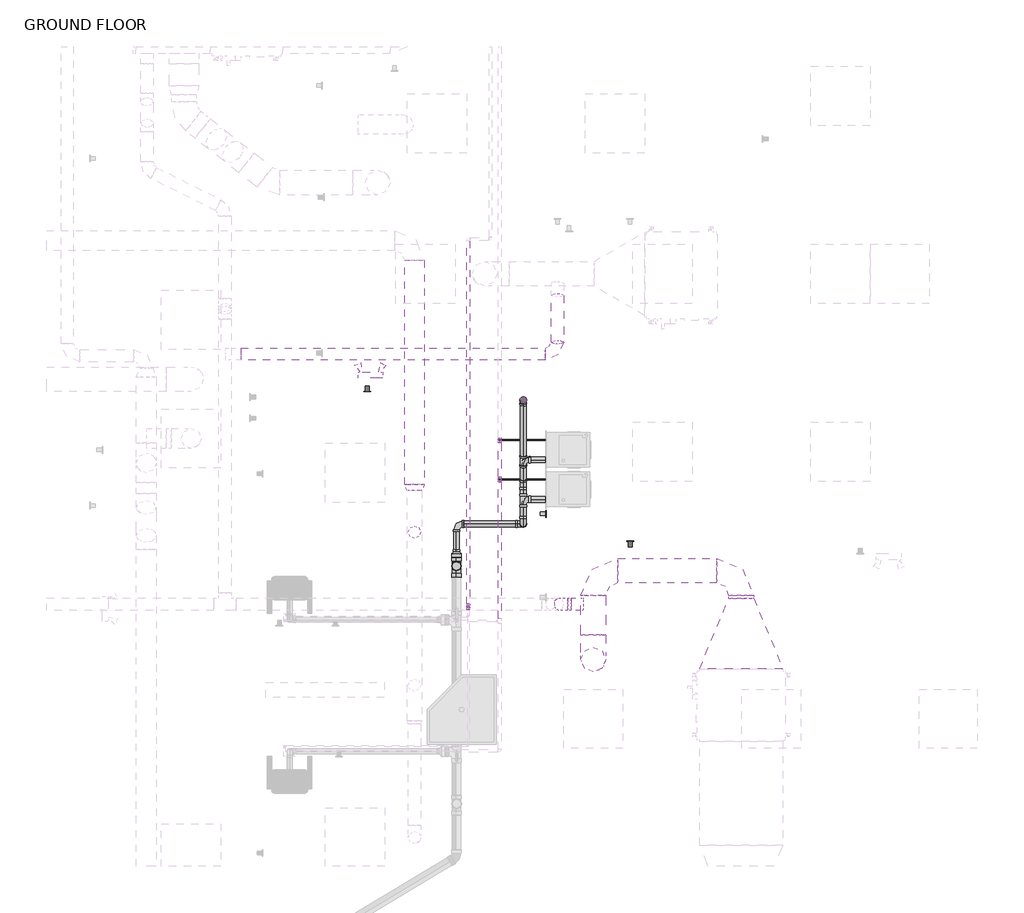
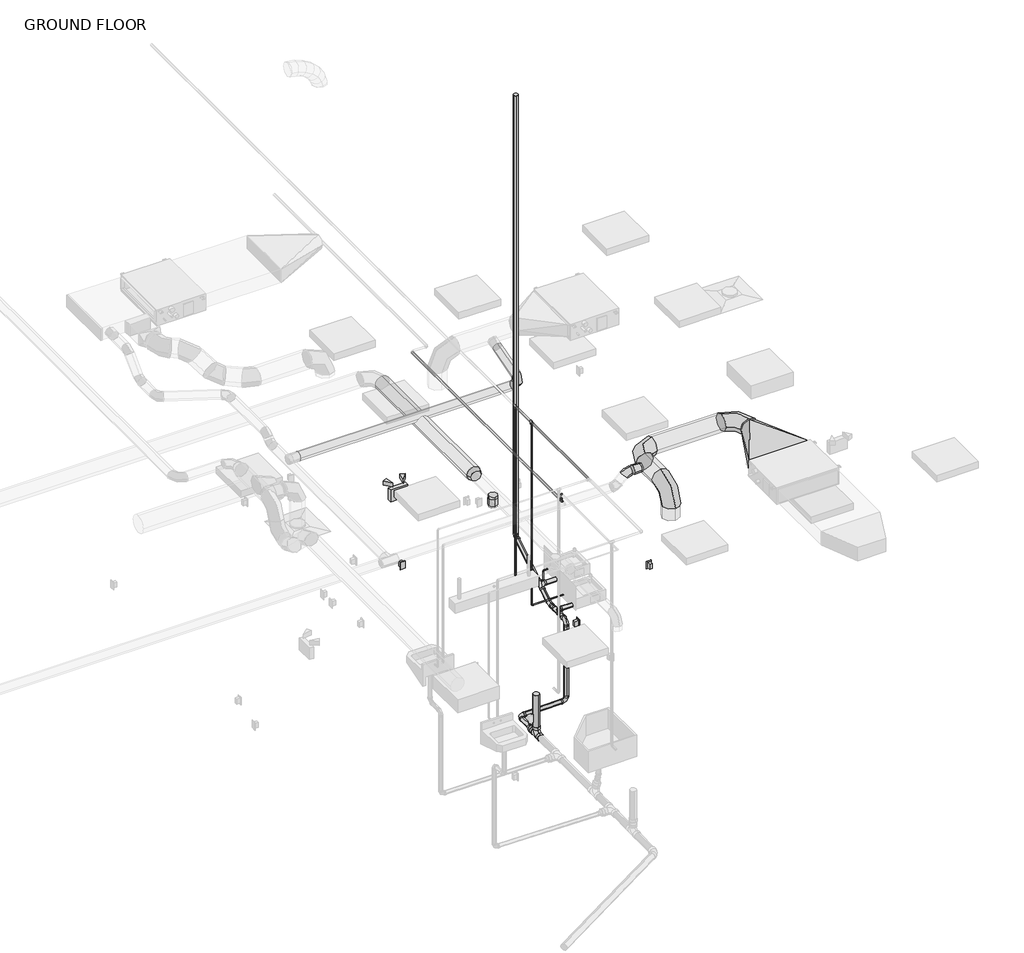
# One storey, part 9 of 22: 21 pipe fittings, 21 pipe segments, 9 duct fittings, 9 duct segments, 2 switching devices, 1 light fixture, 1 proxy.
"""IFC4 building model written with IfcOpenShell, lengths in millimetres."""

from ifc_helpers import new_model, si_unit, point, frame, frame_2d, origin, place, context, project, spatial, circle_curve, trimmed, segment, composite_curve, outline, extrude, transform, mapped, element, save
from components import duplex_receptacle_countertop_10251bba, rectangular_to_round_transition_angle_45_degree_daff1ed7, round_elbow_1_d_6fec3262, round_elbow_1_d_c80420c1, round_elbow_1_d_d98422f0, round_takeoff_standard_0d53327c, round_takeoff_standard_e4d44d96, round_transition_angle_45_degree_998e22e1, emergency_wall_light_120v_37438f40, bend_pvc_sch_40_dwv_standard_1eaeee76, bend_pvc_sch_40_dwv_standard_d9ad1acb, bend_pvc_sch_40_dwv_standard_2067a29d, bend_pvc_sch_40_dwv_standard_52106326, bend_pvc_sch_40_dwv_standard_d8414b2c, elbow_generic_standard_6ceb1649, elbow_generic_standard_a088f956, reducer_pvc_sch_40_dwv_standard_464ee0c2, tee_generic_standard_d345b28c, tee_sanitary_pvc_sch_40_dwv_standard_1c89b272, tee_sanitary_pvc_sch_40_dwv_standard_7b7ecc20, transition_generic_standard_19d9bb8b, transition_generic_standard_df161815, transition_generic_standard_18b712a4

model = new_model("IFC4")

# Units and contexts
model_context = context("Model", 3, world=origin())
ifc_project = project(units=[si_unit("LENGTHUNIT", "METRE", prefix="MILLI")], contexts=[model_context])

# Site, building, storey
site = spatial("IfcSite", under=ifc_project)
building = spatial("IfcBuilding", under=site)
storey = spatial("IfcBuildingStorey", under=building, Name="GROUND FLOOR", Elevation=30480.0)

# Proxy
placement = place(None, origin())
duplex_receptacle_countertop_shape = duplex_receptacle_countertop_10251bba(model_context)
element("IfcBuildingElementProxy", 1, Name="Duplex Receptacle : Standard", ObjectType="Duplex Receptacle : Standard", at=placement, inside=storey, context=model_context, shape_type="MappedRepresentation", body=[
    mapped(duplex_receptacle_countertop_shape, transform((13856.6545393, -2316.5298584, 30937.2), x_axis=(0.0, 1.0, 0.0), y_axis=(0.0, 0.0, 1.0), z_axis=(1.0, 0.0, 0.0))),
])

# Duct fittings
rectangular_to_round_transition_angle_45_degree_shape = rectangular_to_round_transition_angle_45_degree_daff1ed7(model_context)
element("IfcDuctFitting", 2, ObjectType="Rectangular to Round Transition - Angle : 45 Degree", at=placement, inside=storey, context=model_context, shape_type="MappedRepresentation", body=[
    mapped(rectangular_to_round_transition_angle_45_degree_shape, transform((15866.7105962, -3910.739426, 33763.74375), x_axis=(0.0, 1.0, 0.0), y_axis=(-1.0, 0.0, 0.0), z_axis=(0.0, 0.0, 1.0))),
])
round_elbow_1_d_shape = round_elbow_1_d_6fec3262(model_context)
element("IfcDuctFitting", 3, ObjectType="Round Elbow : 1 D", at=placement, inside=storey, context=model_context, shape_type="MappedRepresentation", body=[
    mapped(round_elbow_1_d_shape, transform((15866.7105962, -2901.8412376, 33763.74375), x_axis=(0.0, 1.0, 0.0), y_axis=(-1.0, 0.0, 0.0), z_axis=(0.0, 0.0, 1.0))),
])
element("IfcDuctFitting", 4, ObjectType="Round Elbow : 1 D", at=placement, inside=storey, context=model_context, shape_type="MappedRepresentation", body=[
    mapped(round_elbow_1_d_shape, transform((14345.6045393, -3815.3554995, 33763.74375), x_axis=(0.0, 0.0, 1.0), y_axis=(0.0, 1.0, 0.0), z_axis=(-1.0, 0.0, 0.0))),
])
element("IfcDuctFitting", 5, ObjectType="Round Elbow : 1 D", at=placement, inside=storey, context=model_context, shape_type="MappedRepresentation", body=[
    mapped(round_elbow_1_d_shape, transform((14345.6045393, -2901.8412376, 33763.74375), x_axis=(-1.0, 0.0, 0.0), y_axis=(0.0, -1.0, 0.0), z_axis=(0.0, 0.0, 1.0))),
])
round_elbow_1_d_2_shape = round_elbow_1_d_c80420c1(model_context)
element("IfcDuctFitting", 6, ObjectType="Round Elbow : 1 D", at=placement, inside=storey, context=model_context, shape_type="MappedRepresentation", body=[
    mapped(round_elbow_1_d_2_shape, transform((13976.8577502, -673.4644888, 33602.9101562), x_axis=(1.0, 0.0, 0.0), y_axis=(0.0, 0.9574860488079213, 0.2884795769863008), z_axis=(0.0, -0.2884795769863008, 0.9574860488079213))),
])
round_elbow_1_d_3_shape = round_elbow_1_d_d98422f0(model_context)
element("IfcDuctFitting", 7, ObjectType="Round Elbow : 1 D", at=placement, inside=storey, context=model_context, shape_type="MappedRepresentation", body=[
    mapped(round_elbow_1_d_3_shape, transform((14029.5744977, -3245.6216457, 33763.74375), x_axis=(-1.0, 0.0, 0.0), y_axis=(0.0, 0.0, -1.0), z_axis=(0.0, -1.0, 0.0))),
])
round_takeoff_standard_shape = round_takeoff_standard_0d53327c(model_context)
element("IfcDuctFitting", 8, ObjectType="Round Takeoff : Standard", at=placement, inside=storey, context=model_context, shape_type="MappedRepresentation", body=[
    mapped(round_takeoff_standard_shape, transform((12507.2795393, -2504.0804995, 33451.8), x_axis=(0.0, 0.0, -1.0), y_axis=(-1.0, 0.0, 0.0), z_axis=(0.0, 1.0, 0.0))),
])
round_takeoff_standard_2_shape = round_takeoff_standard_e4d44d96(model_context)
element("IfcDuctFitting", 9, ObjectType="Round Takeoff : Standard", at=placement, inside=storey, context=model_context, shape_type="MappedRepresentation", body=[
    mapped(round_takeoff_standard_2_shape, transform((14218.6045393, -3245.6216457, 33763.74375), x_axis=(-1.0, 0.0, 0.0), y_axis=(0.0, 1.0, 0.0), z_axis=(0.0, 0.0, -1.0))),
])
round_transition_angle_45_degree_shape = round_transition_angle_45_degree_998e22e1(model_context)
element("IfcDuctFitting", 10, ObjectType="Round Transition - Angle : 45 Degree", at=placement, inside=storey, context=model_context, shape_type="MappedRepresentation", body=[
    mapped(round_transition_angle_45_degree_shape, transform((12507.2795393, -2078.3733869, 33528.0), x_axis=(0.0, 1.0, 0.0), y_axis=(-1.0, 0.0, 0.0), z_axis=(0.0, 0.0, 1.0))),
])

# Duct segments
element("IfcDuctSegment", 11, ObjectType="Taps / Short Radius", at=placement, inside=storey, context=model_context, shape_type="SweptSolid", body=[
    extrude(outline(composite_curve([segment(trimmed(circle_curve(frame_2d((33763.74375, 15866.7105962)), 127.0), [point((33763.74375, 15993.7105962))], [point((33890.74375, 15866.7105962))], False, "CARTESIAN"), True, "CONTINUOUS"), segment(trimmed(circle_curve(frame_2d((33763.74375, 15866.7105962)), 127.0), [point((33890.74375, 15866.7105962))], [point((33763.74375, 15739.7105962))], False, "CARTESIAN"), True, "CONTINUOUS"), segment(trimmed(circle_curve(frame_2d((33763.74375, 15866.7105962)), 127.0), [point((33763.74375, 15739.7105962))], [point((33636.74375, 15866.7105962))], False, "CARTESIAN"), True, "CONTINUOUS"), segment(trimmed(circle_curve(frame_2d((33763.74375, 15866.7105962)), 127.0), [point((33636.74375, 15866.7105962))], [point((33763.74375, 15993.7105962))], False, "CARTESIAN"), True, "CONTINUOUS")], self_intersect=False)), frame((0.0, -3184.4685422, 0.0), z_axis=(0.0, 1.0, 0.0), x_axis=(0.0, 0.0, 1.0)), (0.0, 0.0, 1.0), 28.6273046),
])
element("IfcDuctSegment", 12, ObjectType="Taps / Short Radius", at=placement, inside=storey, context=model_context, shape_type="SweptSolid", body=[
    extrude(outline(composite_curve([segment(trimmed(circle_curve(frame_2d((-2901.8412376, 33763.74375)), 127.0), [point((-2774.8412376, 33763.74375))], [point((-2901.8412376, 33636.74375))], False, "CARTESIAN"), True, "CONTINUOUS"), segment(trimmed(circle_curve(frame_2d((-2901.8412376, 33763.74375)), 127.0), [point((-2901.8412376, 33636.74375))], [point((-3028.8412376, 33763.74375))], False, "CARTESIAN"), True, "CONTINUOUS"), segment(trimmed(circle_curve(frame_2d((-2901.8412376, 33763.74375)), 127.0), [point((-3028.8412376, 33763.74375))], [point((-2901.8412376, 33890.74375))], False, "CARTESIAN"), True, "CONTINUOUS"), segment(trimmed(circle_curve(frame_2d((-2901.8412376, 33763.74375)), 127.0), [point((-2901.8412376, 33890.74375))], [point((-2774.8412376, 33763.74375))], False, "CARTESIAN"), True, "CONTINUOUS")], self_intersect=False)), frame((14599.6045393, 0.0, 0.0), z_axis=(1.0, 0.0, 0.0), x_axis=(0.0, 1.0, 0.0)), (0.0, 0.0, 1.0), 1013.1060569),
])
element("IfcDuctSegment", 13, ObjectType="Taps / Short Radius", at=placement, inside=storey, context=model_context, shape_type="SweptSolid", body=[
    extrude(outline(composite_curve([segment(trimmed(circle_curve(frame_2d((33763.74375, 14345.6045393)), 127.0), [point((33763.74375, 14472.6045393))], [point((33890.74375, 14345.6045393))], False, "CARTESIAN"), True, "CONTINUOUS"), segment(trimmed(circle_curve(frame_2d((33763.74375, 14345.6045393)), 127.0), [point((33890.74375, 14345.6045393))], [point((33763.74375, 14218.6045393))], False, "CARTESIAN"), True, "CONTINUOUS"), segment(trimmed(circle_curve(frame_2d((33763.74375, 14345.6045393)), 127.0), [point((33763.74375, 14218.6045393))], [point((33636.74375, 14345.6045393))], False, "CARTESIAN"), True, "CONTINUOUS"), segment(trimmed(circle_curve(frame_2d((33763.74375, 14345.6045393)), 127.0), [point((33636.74375, 14345.6045393))], [point((33763.74375, 14472.6045393))], False, "CARTESIAN"), True, "CONTINUOUS")], self_intersect=False)), frame((0.0, -3561.3554995, 0.0), z_axis=(0.0, 1.0, 0.0), x_axis=(0.0, 0.0, 1.0)), (0.0, 0.0, 1.0), 405.5142618),
])
element("IfcDuctSegment", 14, ObjectType="Taps / Short Radius", at=placement, inside=storey, context=model_context, shape_type="SweptSolid", body=[
    extrude(outline(composite_curve([segment(trimmed(circle_curve(frame_2d((14345.6045393, -3815.3554995)), 127.0), [point((14472.6045393, -3815.3554995))], [point((14345.6045393, -3942.3554995))], False, "CARTESIAN"), True, "CONTINUOUS"), segment(trimmed(circle_curve(frame_2d((14345.6045393, -3815.3554995)), 127.0), [point((14345.6045393, -3942.3554995))], [point((14218.6045393, -3815.3554995))], False, "CARTESIAN"), True, "CONTINUOUS"), segment(trimmed(circle_curve(frame_2d((14345.6045393, -3815.3554995)), 127.0), [point((14218.6045393, -3815.3554995))], [point((14345.6045393, -3688.3554995))], False, "CARTESIAN"), True, "CONTINUOUS"), segment(trimmed(circle_curve(frame_2d((14345.6045393, -3815.3554995)), 127.0), [point((14345.6045393, -3688.3554995))], [point((14472.6045393, -3815.3554995))], False, "CARTESIAN"), True, "CONTINUOUS")], self_intersect=False)), frame((0.0, 0.0, 33324.8), z_axis=(0.0, 0.0, 1.0), x_axis=(1.0, 0.0, 0.0)), (0.0, 0.0, 1.0), 184.94375),
])
element("IfcDuctSegment", 15, ObjectType="Taps / Short Radius", at=placement, inside=storey, context=model_context, shape_type="SweptSolid", body=[
    extrude(outline(composite_curve([segment(trimmed(circle_curve(frame_2d((-673.4644888, 33602.9101562)), 63.5), [point((-736.9644888, 33602.9101562))], [point((-673.4644888, 33666.4101562))], False, "CARTESIAN"), True, "CONTINUOUS"), segment(trimmed(circle_curve(frame_2d((-673.4644888, 33602.9101562)), 63.5), [point((-673.4644888, 33666.4101562))], [point((-609.9644888, 33602.9101562))], False, "CARTESIAN"), True, "CONTINUOUS"), segment(trimmed(circle_curve(frame_2d((-673.4644888, 33602.9101562)), 63.5), [point((-609.9644888, 33602.9101562))], [point((-673.4644888, 33539.4101563))], False, "CARTESIAN"), True, "CONTINUOUS"), segment(trimmed(circle_curve(frame_2d((-673.4644888, 33602.9101562)), 63.5), [point((-673.4644888, 33539.4101563))], [point((-736.9644888, 33602.9101562))], False, "CARTESIAN"), True, "CONTINUOUS")], self_intersect=False)), frame((10725.6577502, 0.0, 0.0), z_axis=(1.0, 0.0, 0.0), x_axis=(0.0, 1.0, 0.0)), (0.0, 0.0, 1.0), 3124.2),
])
element("IfcDuctSegment", 16, ObjectType="Taps / Short Radius", at=placement, inside=storey, context=model_context, shape_type="SweptSolid", body=[
    extrude(outline(composite_curve([segment(trimmed(circle_curve(frame_2d((-3245.6216457, 33763.74375)), 63.5), [point((-3182.1216457, 33763.74375))], [point((-3245.6216457, 33700.24375))], False, "CARTESIAN"), True, "CONTINUOUS"), segment(trimmed(circle_curve(frame_2d((-3245.6216457, 33763.74375)), 63.5), [point((-3245.6216457, 33700.24375))], [point((-3309.1216457, 33763.74375))], False, "CARTESIAN"), True, "CONTINUOUS"), segment(trimmed(circle_curve(frame_2d((-3245.6216457, 33763.74375)), 63.5), [point((-3309.1216457, 33763.74375))], [point((-3245.6216457, 33827.24375))], False, "CARTESIAN"), True, "CONTINUOUS"), segment(trimmed(circle_curve(frame_2d((-3245.6216457, 33763.74375)), 63.5), [point((-3245.6216457, 33827.24375))], [point((-3182.1216457, 33763.74375))], False, "CARTESIAN"), True, "CONTINUOUS")], self_intersect=False)), frame((14082.1796392, 0.0, 0.0), z_axis=(1.0, 0.0, 0.0), x_axis=(0.0, 1.0, 0.0)), (0.0, 0.0, 1.0), 34.8249001),
])
element("IfcDuctSegment", 17, ObjectType="Taps / Short Radius", at=placement, inside=storey, context=model_context, shape_type="SweptSolid", body=[
    extrude(outline(composite_curve([segment(trimmed(circle_curve(frame_2d((0.0, -63.5)), 63.5), [point((-63.5, -63.5))], [point((0.0, 0.0))], False, "CARTESIAN"), True, "CONTINUOUS"), segment(trimmed(circle_curve(frame_2d((0.0, -63.5)), 63.5), [point((0.0, 0.0))], [point((63.5, -63.5))], False, "CARTESIAN"), True, "CONTINUOUS"), segment(trimmed(circle_curve(frame_2d((0.0, -63.5)), 63.5), [point((63.5, -63.5))], [point((0.0, -127.0))], False, "CARTESIAN"), True, "CONTINUOUS"), segment(trimmed(circle_curve(frame_2d((0.0, -63.5)), 63.5), [point((0.0, -127.0))], [point((-63.5, -63.5))], False, "CARTESIAN"), True, "CONTINUOUS")], self_intersect=False)), frame((13976.8577502, -533.5453075, 33578.7466984), z_axis=(0.0, 0.9574860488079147, 0.28847957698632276), x_axis=(1.0, 0.0, 0.0)), (0.0, 0.0, 1.0), 504.8970831),
])
element("IfcDuctSegment", 18, ObjectType="Taps / Short Radius", at=placement, inside=storey, context=model_context, shape_type="SweptSolid", body=[
    extrude(outline(composite_curve([segment(trimmed(circle_curve(frame_2d((33528.0, 12507.2795393)), 101.6), [point((33528.0, 12608.8795393))], [point((33629.6, 12507.2795393))], False, "CARTESIAN"), True, "CONTINUOUS"), segment(trimmed(circle_curve(frame_2d((33528.0, 12507.2795393)), 101.6), [point((33629.6, 12507.2795393))], [point((33528.0, 12405.6795393))], False, "CARTESIAN"), True, "CONTINUOUS"), segment(trimmed(circle_curve(frame_2d((33528.0, 12507.2795393)), 101.6), [point((33528.0, 12405.6795393))], [point((33426.4, 12507.2795393))], False, "CARTESIAN"), True, "CONTINUOUS"), segment(trimmed(circle_curve(frame_2d((33528.0, 12507.2795393)), 101.6), [point((33426.4, 12507.2795393))], [point((33528.0, 12608.8795393))], False, "CARTESIAN"), True, "CONTINUOUS")], self_intersect=False)), frame((0.0, -2017.0523624, 0.0), z_axis=(0.0, 1.0, 0.0), x_axis=(0.0, 0.0, 1.0)), (0.0, 0.0, 1.0), 2307.1938554),
])
element("IfcDuctSegment", 19, ObjectType="Taps / Short Radius", at=placement, inside=storey, context=model_context, shape_type="SweptSolid", body=[
    extrude(outline(composite_curve([segment(trimmed(circle_curve(frame_2d((0.0, 63.5)), 63.5), [point((-63.5, 63.5))], [point((0.0, 127.0))], False, "CARTESIAN"), True, "CONTINUOUS"), segment(trimmed(circle_curve(frame_2d((0.0, 63.5)), 63.5), [point((0.0, 127.0))], [point((63.5, 63.5))], False, "CARTESIAN"), True, "CONTINUOUS"), segment(trimmed(circle_curve(frame_2d((0.0, 63.5)), 63.5), [point((63.5, 63.5))], [point((0.0, 0.0))], False, "CARTESIAN"), True, "CONTINUOUS"), segment(trimmed(circle_curve(frame_2d((0.0, 63.5)), 63.5), [point((0.0, 0.0))], [point((-63.5, 63.5))], False, "CARTESIAN"), True, "CONTINUOUS")], self_intersect=False)), frame((12507.2795393, -2567.5804995, 33324.8), z_axis=(0.0, -2.3192114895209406e-12, 1.0), x_axis=(1.0, 0.0, 0.0)), (0.0, 0.0, 1.0), 25.4),
])

# Light fixture
emergency_wall_light_120v_shape = emergency_wall_light_120v_37438f40(model_context)
element("IfcLightFixture", 20, ObjectType="Emergency Wall Light : 120V", at=placement, inside=storey, context=model_context, shape_type="MappedRepresentation", body=[
    mapped(emergency_wall_light_120v_shape, transform((12055.5511347, -919.7554995, 32715.2), x_axis=(-1.0, 0.0, 0.0), y_axis=(0.0, 0.0, 1.0), z_axis=(0.0, 1.0, 0.0))),
])

# Pipe fittings
bend_pvc_sch_40_dwv_standard_shape = bend_pvc_sch_40_dwv_standard_1eaeee76(model_context)
element("IfcPipeFitting", 21, ObjectType="Bend - PVC - Sch 40 - DWV : Standard", at=placement, inside=storey, context=model_context, shape_type="MappedRepresentation", body=[
    mapped(bend_pvc_sch_40_dwv_standard_shape, transform((13624.8795393, -2421.2610943, 31115.0), x_axis=(0.0, 0.0, 1.0), y_axis=(0.0, 1.0, 0.0), z_axis=(-1.0, 0.0, 0.0))),
])
bend_pvc_sch_40_dwv_standard_2_shape = bend_pvc_sch_40_dwv_standard_d9ad1acb(model_context)
element("IfcPipeFitting", 22, ObjectType="Bend - PVC - Sch 40 - DWV : Standard", at=placement, inside=storey, context=model_context, shape_type="MappedRepresentation", body=[
    mapped(bend_pvc_sch_40_dwv_standard_2_shape, transform((13624.8795393, -2009.7750135, 31115.0), x_axis=(0.0, 1.0, 0.0), y_axis=(0.0, 0.0, 1.0), z_axis=(1.0, 0.0, 0.0))),
])
bend_pvc_sch_40_dwv_standard_3_shape = bend_pvc_sch_40_dwv_standard_2067a29d(model_context)
element("IfcPipeFitting", 23, ObjectType="Bend - PVC - Sch 40 - DWV : Standard", at=placement, inside=storey, context=model_context, shape_type="MappedRepresentation", body=[
    mapped(bend_pvc_sch_40_dwv_standard_3_shape, transform((12939.0795393, -2421.2610943, 29874.8317708), x_axis=(-0.9999457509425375, 0.0, -0.010416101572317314), y_axis=(0.0001084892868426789, -0.9999457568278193, -0.010414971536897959), z_axis=(-0.010415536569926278, -0.010415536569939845, 0.9998915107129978))),
])
bend_pvc_sch_40_dwv_standard_4_shape = bend_pvc_sch_40_dwv_standard_52106326(model_context)
element("IfcPipeFitting", 24, ObjectType="Bend - PVC - Sch 40 - DWV : Standard", at=placement, inside=storey, context=model_context, shape_type="MappedRepresentation", body=[
    mapped(bend_pvc_sch_40_dwv_standard_4_shape, transform((13624.8795393, -2421.2610943, 29881.9755208), x_axis=(0.9999457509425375, 0.0, 0.010416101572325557), y_axis=(-0.010416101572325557, 0.0, 0.9999457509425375), z_axis=(0.0, -1.0, 0.0))),
])
bend_pvc_sch_40_dwv_standard_5_shape = bend_pvc_sch_40_dwv_standard_d8414b2c(model_context)
element("IfcPipeFitting", 25, ObjectType="Bend - PVC - Sch 40 - DWV : Standard", at=placement, inside=storey, context=model_context, shape_type="MappedRepresentation", body=[
    mapped(bend_pvc_sch_40_dwv_standard_5_shape, transform((13624.8795393, -1146.9148781, 31642.6356096), x_axis=(0.0, 0.8531356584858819, 0.5216891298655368), y_axis=(0.0, -0.5216891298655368, 0.8531356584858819), z_axis=(1.0, 0.0, 0.0))),
])
elbow_generic_standard_shape = elbow_generic_standard_6ceb1649(model_context)
element("IfcPipeFitting", 26, ObjectType="Elbow - Generic : Standard", at=placement, inside=storey, context=model_context, shape_type="MappedRepresentation", body=[
    mapped(elbow_generic_standard_shape, transform((13383.5569177, -1963.7502033, 31150.71875), x_axis=(0.0, 0.0, -1.0), y_axis=(1.0, 0.0, 0.0), z_axis=(0.0, -1.0, 0.0))),
])
element("IfcPipeFitting", 27, ObjectType="Elbow - Generic : Standard", at=placement, inside=storey, context=model_context, shape_type="MappedRepresentation", body=[
    mapped(elbow_generic_standard_shape, transform((13789.9797527, -1557.3502033, 31303.11875), x_axis=(-1.0, 0.0, 0.0), y_axis=(0.0, 0.0, -1.0), z_axis=(0.0, -1.0, 0.0))),
])
element("IfcPipeFitting", 28, ObjectType="Elbow - Generic : Standard", at=placement, inside=storey, context=model_context, shape_type="MappedRepresentation", body=[
    mapped(elbow_generic_standard_shape, transform((13383.5569177, -1557.3502033, 31150.71875), x_axis=(0.0, 0.0, -1.0), y_axis=(1.0, 0.0, 0.0), z_axis=(0.0, -1.0, 0.0))),
])
element("IfcPipeFitting", 29, ObjectType="Elbow - Generic : Standard", at=placement, inside=storey, context=model_context, shape_type="MappedRepresentation", body=[
    mapped(elbow_generic_standard_shape, transform((13789.9797527, -1557.3502033, 31150.71875), x_axis=(0.0, 0.0, -1.0), y_axis=(-1.0, 0.0, 0.0), z_axis=(0.0, 1.0, 0.0))),
])
elbow_generic_standard_2_shape = elbow_generic_standard_a088f956(model_context)
element("IfcPipeFitting", 30, ObjectType="Elbow - Generic : Standard", at=placement, inside=storey, context=model_context, shape_type="MappedRepresentation", body=[
    mapped(elbow_generic_standard_2_shape, transform((13060.9512041, -3272.4304995, 33782.0), x_axis=(0.0, 1.0, 0.0), y_axis=(0.0, 0.0, -1.0), z_axis=(-1.0, 0.0, 0.0))),
])
reducer_pvc_sch_40_dwv_standard_shape = reducer_pvc_sch_40_dwv_standard_464ee0c2(model_context)
element("IfcPipeFitting", 31, ObjectType="Reducer - PVC - Sch 40 - DWV : Standard", at=placement, inside=storey, context=model_context, shape_type="MappedRepresentation", body=[
    mapped(reducer_pvc_sch_40_dwv_standard_shape, transform((12939.0795393, -2764.1614629, 29871.3288441), x_axis=(0.0, 0.9999457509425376, 0.010416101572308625), y_axis=(-1.0, 0.0, 0.0), z_axis=(0.0, -0.010416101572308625, 0.9999457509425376))),
])
tee_generic_standard_shape = tee_generic_standard_d345b28c(model_context)
element("IfcPipeFitting", 32, ObjectType="Tee - Generic : Standard", at=placement, inside=storey, context=model_context, shape_type="MappedRepresentation", body=[
    mapped(tee_generic_standard_shape, transform((13383.5569177, -1963.7502033, 33978.2831664), x_axis=(0.0, -1.0, 0.0), y_axis=(0.0, 0.0, 1.0), z_axis=(-1.0, 0.0, 0.0))),
])
element("IfcPipeFitting", 33, ObjectType="Tee - Generic : Standard", at=placement, inside=storey, context=model_context, shape_type="MappedRepresentation", body=[
    mapped(tee_generic_standard_shape, transform((13383.5569177, -1557.3502033, 33978.2831664), x_axis=(0.0, -1.0, 0.0), y_axis=(0.0, 0.0, 1.0), z_axis=(-1.0, 0.0, 0.0))),
])
element("IfcPipeFitting", 34, ObjectType="Tee - Generic : Standard", at=placement, inside=storey, context=model_context, shape_type="MappedRepresentation", body=[
    mapped(tee_generic_standard_shape, transform((13060.9512041, -3272.4304995, 33680.4), x_axis=(0.0, 1.0, 0.0), y_axis=(0.0, 0.0, -1.0), z_axis=(-1.0, 0.0, 0.0))),
])
tee_sanitary_pvc_sch_40_dwv_standard_shape = tee_sanitary_pvc_sch_40_dwv_standard_1c89b272(model_context)
element("IfcPipeFitting", 35, ObjectType="Tee Sanitary - PVC - Sch 40 - DWV : Standard", at=placement, inside=storey, context=model_context, shape_type="MappedRepresentation", body=[
    mapped(tee_sanitary_pvc_sch_40_dwv_standard_shape, transform((12939.0795393, -2853.3308732, 29870.3999961), x_axis=(0.0, 0.9999457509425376, 0.010416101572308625), y_axis=(0.0, 0.010416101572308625, -0.9999457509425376), z_axis=(-1.0, 0.0, 0.0))),
])
tee_sanitary_pvc_sch_40_dwv_standard_2_shape = tee_sanitary_pvc_sch_40_dwv_standard_7b7ecc20(model_context)
element("IfcPipeFitting", 36, ObjectType="Tee Sanitary - PVC - Sch 40 - DWV : Standard", at=placement, inside=storey, context=model_context, shape_type="MappedRepresentation", body=[
    mapped(tee_sanitary_pvc_sch_40_dwv_standard_2_shape, transform((13624.8795393, -2166.9502033, 31115.0), x_axis=(0.0, 1.0, 0.0), y_axis=(-1.0, 0.0, 0.0), z_axis=(0.0, 0.0, 1.0))),
])
element("IfcPipeFitting", 37, ObjectType="Tee Sanitary - PVC - Sch 40 - DWV : Standard", at=placement, inside=storey, context=model_context, shape_type="MappedRepresentation", body=[
    mapped(tee_sanitary_pvc_sch_40_dwv_standard_2_shape, transform((13624.8795393, -1760.5502033, 31267.4), x_axis=(0.0, 0.8531356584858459, 0.5216891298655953), y_axis=(-1.0, 0.0, 0.0), z_axis=(0.0, -0.5216891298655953, 0.8531356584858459))),
])
transition_generic_standard_shape = transition_generic_standard_19d9bb8b(model_context)
element("IfcPipeFitting", 38, ObjectType="Transition - Generic : Standard", at=placement, inside=storey, context=model_context, shape_type="MappedRepresentation", body=[
    mapped(transition_generic_standard_shape, transform((13060.9512041, -3272.4304995, 33707.3875), x_axis=(0.0, 0.0, 1.0), y_axis=(0.0, 1.0, 0.0), z_axis=(-1.0, 0.0, 0.0))),
])
transition_generic_standard_2_shape = transition_generic_standard_df161815(model_context)
element("IfcPipeFitting", 39, ObjectType="Transition - Generic : Standard", at=placement, inside=storey, context=model_context, shape_type="MappedRepresentation", body=[
    mapped(transition_generic_standard_2_shape, transform((13060.9512041, -3299.4179995, 33680.4), x_axis=(0.0, -1.0, 0.0), y_axis=(1.0, 0.0, 0.0), z_axis=(0.0, 0.0, 1.0))),
])
transition_generic_standard_3_shape = transition_generic_standard_18b712a4(model_context)
element("IfcPipeFitting", 40, ObjectType="Transition - Generic : Standard", at=placement, inside=storey, context=model_context, shape_type="MappedRepresentation", body=[
    mapped(transition_generic_standard_3_shape, transform((13383.5569177, -1963.7502033, 33951.2956664), x_axis=(0.0, 0.0, -1.0), y_axis=(0.0, 1.0, 0.0), z_axis=(1.0, 0.0, 0.0))),
])
element("IfcPipeFitting", 41, ObjectType="Transition - Generic : Standard", at=placement, inside=storey, context=model_context, shape_type="MappedRepresentation", body=[
    mapped(transition_generic_standard_3_shape, transform((13383.5569177, -1557.3502033, 33951.2956664), x_axis=(0.0, 0.0, -1.0), y_axis=(0.0, 1.0, 0.0), z_axis=(1.0, 0.0, 0.0))),
])

# Pipe segments
element("IfcPipeSegment", 42, ObjectType="Copper Tubing", at=placement, inside=storey, context=model_context, shape_type="SweptSolid", body=[
    extrude(outline(composite_curve([segment(trimmed(circle_curve(frame_2d((33978.2831664, 13383.5569177)), 14.2875), [point((33978.2831664, 13369.2694177))], [point((33963.9956664, 13383.5569177))], False, "CARTESIAN"), True, "CONTINUOUS"), segment(trimmed(circle_curve(frame_2d((33978.2831664, 13383.5569177)), 14.2875), [point((33963.9956664, 13383.5569177))], [point((33978.2831664, 13397.8444177))], False, "CARTESIAN"), True, "CONTINUOUS"), segment(trimmed(circle_curve(frame_2d((33978.2831664, 13383.5569177)), 14.2875), [point((33978.2831664, 13397.8444177))], [point((33992.5706664, 13383.5569177))], False, "CARTESIAN"), True, "CONTINUOUS"), segment(trimmed(circle_curve(frame_2d((33978.2831664, 13383.5569177)), 14.2875), [point((33992.5706664, 13383.5569177))], [point((33978.2831664, 13369.2694177))], False, "CARTESIAN"), True, "CONTINUOUS")], self_intersect=False)), frame((0.0, -3391.4929995, 0.0), z_axis=(0.0, 1.0, 0.0), x_axis=(0.0, 0.0, 1.0)), (0.0, 0.0, 1.0), 1400.7552962),
])
element("IfcPipeSegment", 43, ObjectType="Copper Tubing", at=placement, inside=storey, context=model_context, shape_type="SweptSolid", body=[
    extrude(outline(composite_curve([segment(trimmed(circle_curve(frame_2d((-1963.7502033, 31150.71875)), 6.35), [point((-1970.1002033, 31150.71875))], [point((-1963.7502033, 31157.06875))], False, "CARTESIAN"), True, "CONTINUOUS"), segment(trimmed(circle_curve(frame_2d((-1963.7502033, 31150.71875)), 6.35), [point((-1963.7502033, 31157.06875))], [point((-1957.4002033, 31150.71875))], False, "CARTESIAN"), True, "CONTINUOUS"), segment(trimmed(circle_curve(frame_2d((-1963.7502033, 31150.71875)), 6.35), [point((-1957.4002033, 31150.71875))], [point((-1963.7502033, 31144.36875))], False, "CARTESIAN"), True, "CONTINUOUS"), segment(trimmed(circle_curve(frame_2d((-1963.7502033, 31150.71875)), 6.35), [point((-1963.7502033, 31144.36875))], [point((-1970.1002033, 31150.71875))], False, "CARTESIAN"), True, "CONTINUOUS")], self_intersect=False)), frame((13396.2569177, 0.0, 0.0), z_axis=(1.0, 0.0, 0.0), x_axis=(0.0, 1.0, 0.0)), (0.0, 0.0, 1.0), 460.3976216),
])
element("IfcPipeSegment", 44, ObjectType="Copper Tubing", at=placement, inside=storey, context=model_context, shape_type="SweptSolid", body=[
    extrude(outline(composite_curve([segment(trimmed(circle_curve(frame_2d((13383.5569177, -1963.7502033)), 6.35), [point((13389.9069177, -1963.7502033))], [point((13383.5569177, -1970.1002033))], False, "CARTESIAN"), True, "CONTINUOUS"), segment(trimmed(circle_curve(frame_2d((13383.5569177, -1963.7502033)), 6.35), [point((13383.5569177, -1970.1002033))], [point((13377.2069177, -1963.7502033))], False, "CARTESIAN"), True, "CONTINUOUS"), segment(trimmed(circle_curve(frame_2d((13383.5569177, -1963.7502033)), 6.35), [point((13377.2069177, -1963.7502033))], [point((13383.5569177, -1957.4002033))], False, "CARTESIAN"), True, "CONTINUOUS"), segment(trimmed(circle_curve(frame_2d((13383.5569177, -1963.7502033)), 6.35), [point((13383.5569177, -1957.4002033))], [point((13389.9069177, -1963.7502033))], False, "CARTESIAN"), True, "CONTINUOUS")], self_intersect=False)), frame((0.0, 0.0, 31163.41875), z_axis=(0.0, 0.0, 1.0), x_axis=(1.0, 0.0, 0.0)), (0.0, 0.0, 1.0), 2780.7331664),
])
element("IfcPipeSegment", 45, ObjectType="Copper Tubing", at=placement, inside=storey, context=model_context, shape_type="SweptSolid", body=[
    extrude(outline(composite_curve([segment(trimmed(circle_curve(frame_2d((33978.2831664, 13383.5569177)), 14.2875), [point((33978.2831664, 13369.2694177))], [point((33963.9956664, 13383.5569177))], False, "CARTESIAN"), True, "CONTINUOUS"), segment(trimmed(circle_curve(frame_2d((33978.2831664, 13383.5569177)), 14.2875), [point((33963.9956664, 13383.5569177))], [point((33978.2831664, 13397.8444177))], False, "CARTESIAN"), True, "CONTINUOUS"), segment(trimmed(circle_curve(frame_2d((33978.2831664, 13383.5569177)), 14.2875), [point((33978.2831664, 13397.8444177))], [point((33992.5706664, 13383.5569177))], False, "CARTESIAN"), True, "CONTINUOUS"), segment(trimmed(circle_curve(frame_2d((33978.2831664, 13383.5569177)), 14.2875), [point((33992.5706664, 13383.5569177))], [point((33978.2831664, 13369.2694177))], False, "CARTESIAN"), True, "CONTINUOUS")], self_intersect=False)), frame((0.0, -1936.7627033, 0.0), z_axis=(0.0, 1.0, 0.0), x_axis=(0.0, 0.0, 1.0)), (0.0, 0.0, 1.0), 352.425),
])
element("IfcPipeSegment", 46, ObjectType="Copper Tubing", at=placement, inside=storey, context=model_context, shape_type="SweptSolid", body=[
    extrude(outline(composite_curve([segment(trimmed(circle_curve(frame_2d((-1557.3502033, 31150.71875)), 6.35), [point((-1563.7002033, 31150.71875))], [point((-1557.3502033, 31157.06875))], False, "CARTESIAN"), True, "CONTINUOUS"), segment(trimmed(circle_curve(frame_2d((-1557.3502033, 31150.71875)), 6.35), [point((-1557.3502033, 31157.06875))], [point((-1551.0002033, 31150.71875))], False, "CARTESIAN"), True, "CONTINUOUS"), segment(trimmed(circle_curve(frame_2d((-1557.3502033, 31150.71875)), 6.35), [point((-1551.0002033, 31150.71875))], [point((-1557.3502033, 31144.36875))], False, "CARTESIAN"), True, "CONTINUOUS"), segment(trimmed(circle_curve(frame_2d((-1557.3502033, 31150.71875)), 6.35), [point((-1557.3502033, 31144.36875))], [point((-1563.7002033, 31150.71875))], False, "CARTESIAN"), True, "CONTINUOUS")], self_intersect=False)), frame((13396.2569177, 0.0, 0.0), z_axis=(1.0, 0.0, 0.0), x_axis=(0.0, 1.0, 0.0)), (0.0, 0.0, 1.0), 381.0228349),
])
element("IfcPipeSegment", 47, ObjectType="Copper Tubing", at=placement, inside=storey, context=model_context, shape_type="SweptSolid", body=[
    extrude(outline(composite_curve([segment(trimmed(circle_curve(frame_2d((-1557.3502033, 31303.11875)), 6.35), [point((-1551.0002033, 31303.11875))], [point((-1557.3502033, 31296.76875))], False, "CARTESIAN"), True, "CONTINUOUS"), segment(trimmed(circle_curve(frame_2d((-1557.3502033, 31303.11875)), 6.35), [point((-1557.3502033, 31296.76875))], [point((-1563.7002033, 31303.11875))], False, "CARTESIAN"), True, "CONTINUOUS"), segment(trimmed(circle_curve(frame_2d((-1557.3502033, 31303.11875)), 6.35), [point((-1563.7002033, 31303.11875))], [point((-1557.3502033, 31309.46875))], False, "CARTESIAN"), True, "CONTINUOUS"), segment(trimmed(circle_curve(frame_2d((-1557.3502033, 31303.11875)), 6.35), [point((-1557.3502033, 31309.46875))], [point((-1551.0002033, 31303.11875))], False, "CARTESIAN"), True, "CONTINUOUS")], self_intersect=False)), frame((13802.6797527, 0.0, 0.0), z_axis=(1.0, 0.0, 0.0), x_axis=(0.0, 1.0, 0.0)), (0.0, 0.0, 1.0), 53.9747866),
])
element("IfcPipeSegment", 48, ObjectType="Copper Tubing", at=placement, inside=storey, context=model_context, shape_type="SweptSolid", body=[
    extrude(outline(composite_curve([segment(trimmed(circle_curve(frame_2d((13789.9797527, -1557.3502033)), 6.35), [point((13796.3297527, -1557.3502033))], [point((13789.9797527, -1563.7002033))], False, "CARTESIAN"), True, "CONTINUOUS"), segment(trimmed(circle_curve(frame_2d((13789.9797527, -1557.3502033)), 6.35), [point((13789.9797527, -1563.7002033))], [point((13783.6297527, -1557.3502033))], False, "CARTESIAN"), True, "CONTINUOUS"), segment(trimmed(circle_curve(frame_2d((13789.9797527, -1557.3502033)), 6.35), [point((13783.6297527, -1557.3502033))], [point((13789.9797527, -1551.0002033))], False, "CARTESIAN"), True, "CONTINUOUS"), segment(trimmed(circle_curve(frame_2d((13789.9797527, -1557.3502033)), 6.35), [point((13789.9797527, -1551.0002033))], [point((13796.3297527, -1557.3502033))], False, "CARTESIAN"), True, "CONTINUOUS")], self_intersect=False)), frame((0.0, 0.0, 31163.41875), z_axis=(0.0, 0.0, 1.0), x_axis=(1.0, 0.0, 0.0)), (0.0, 0.0, 1.0), 127.0),
])
element("IfcPipeSegment", 49, ObjectType="Copper Tubing", at=placement, inside=storey, context=model_context, shape_type="SweptSolid", body=[
    extrude(outline(composite_curve([segment(trimmed(circle_curve(frame_2d((13383.5569177, -1557.3502033)), 6.35), [point((13389.9069177, -1557.3502033))], [point((13383.5569177, -1563.7002033))], False, "CARTESIAN"), True, "CONTINUOUS"), segment(trimmed(circle_curve(frame_2d((13383.5569177, -1557.3502033)), 6.35), [point((13383.5569177, -1563.7002033))], [point((13377.2069177, -1557.3502033))], False, "CARTESIAN"), True, "CONTINUOUS"), segment(trimmed(circle_curve(frame_2d((13383.5569177, -1557.3502033)), 6.35), [point((13377.2069177, -1557.3502033))], [point((13383.5569177, -1551.0002033))], False, "CARTESIAN"), True, "CONTINUOUS"), segment(trimmed(circle_curve(frame_2d((13383.5569177, -1557.3502033)), 6.35), [point((13383.5569177, -1551.0002033))], [point((13389.9069177, -1557.3502033))], False, "CARTESIAN"), True, "CONTINUOUS")], self_intersect=False)), frame((0.0, 0.0, 31163.41875), z_axis=(0.0, 0.0, 1.0), x_axis=(1.0, 0.0, 0.0)), (0.0, 0.0, 1.0), 2780.7331664),
])
element("IfcPipeSegment", 50, ObjectType="Copper Tubing", at=placement, inside=storey, context=model_context, shape_type="SweptSolid", body=[
    extrude(outline(composite_curve([segment(trimmed(circle_curve(frame_2d((13060.9512041, -3272.4304995)), 7.9375), [point((13053.0137041, -3272.4304995))], [point((13060.9512041, -3264.4929995))], False, "CARTESIAN"), True, "CONTINUOUS"), segment(trimmed(circle_curve(frame_2d((13060.9512041, -3272.4304995)), 7.9375), [point((13060.9512041, -3264.4929995))], [point((13068.8887041, -3272.4304995))], False, "CARTESIAN"), True, "CONTINUOUS"), segment(trimmed(circle_curve(frame_2d((13060.9512041, -3272.4304995)), 7.9375), [point((13068.8887041, -3272.4304995))], [point((13060.9512041, -3280.3679995))], False, "CARTESIAN"), True, "CONTINUOUS"), segment(trimmed(circle_curve(frame_2d((13060.9512041, -3272.4304995)), 7.9375), [point((13060.9512041, -3280.3679995))], [point((13053.0137041, -3272.4304995))], False, "CARTESIAN"), True, "CONTINUOUS")], self_intersect=False)), frame((0.0, 0.0, 33714.53125), z_axis=(0.0, 0.0, 1.0), x_axis=(1.0, 0.0, 0.0)), (0.0, 0.0, 1.0), 53.18125),
])
element("IfcPipeSegment", 51, ObjectType="Copper Tubing", at=placement, inside=storey, context=model_context, shape_type="SweptSolid", body=[
    extrude(outline(composite_curve([segment(trimmed(circle_curve(frame_2d((33680.4, 13060.9512041)), 14.2875), [point((33680.4, 13046.6637041))], [point((33666.1125, 13060.9512041))], False, "CARTESIAN"), True, "CONTINUOUS"), segment(trimmed(circle_curve(frame_2d((33680.4, 13060.9512041)), 14.2875), [point((33666.1125, 13060.9512041))], [point((33680.4, 13075.2387041))], False, "CARTESIAN"), True, "CONTINUOUS"), segment(trimmed(circle_curve(frame_2d((33680.4, 13060.9512041)), 14.2875), [point((33680.4, 13075.2387041))], [point((33694.6875, 13060.9512041))], False, "CARTESIAN"), True, "CONTINUOUS"), segment(trimmed(circle_curve(frame_2d((33680.4, 13060.9512041)), 14.2875), [point((33694.6875, 13060.9512041))], [point((33680.4, 13046.6637041))], False, "CARTESIAN"), True, "CONTINUOUS")], self_intersect=False)), frame((0.0, -3245.4429995, 0.0), z_axis=(0.0, 1.0, 0.0), x_axis=(0.0, 0.0, 1.0)), (0.0, 0.0, 1.0), 3734.6365161),
])
element("IfcPipeSegment", 52, ObjectType="PVC - DWV", at=placement, inside=storey, context=model_context, shape_type="SweptSolid", body=[
    extrude(outline(composite_curve([segment(trimmed(circle_curve(frame_2d((0.0, -44.45)), 44.45), [point((-44.45, -44.45))], [point((0.0, 0.0))], False, "CARTESIAN"), True, "CONTINUOUS"), segment(trimmed(circle_curve(frame_2d((0.0, -44.45)), 44.45), [point((0.0, 0.0))], [point((44.45, -44.45))], False, "CARTESIAN"), True, "CONTINUOUS"), segment(trimmed(circle_curve(frame_2d((0.0, -44.45)), 44.45), [point((44.45, -44.45))], [point((0.0, -88.9))], False, "CARTESIAN"), True, "CONTINUOUS"), segment(trimmed(circle_curve(frame_2d((0.0, -44.45)), 44.45), [point((0.0, -88.9))], [point((-44.45, -44.45))], False, "CARTESIAN"), True, "CONTINUOUS")], self_intersect=False)), frame((12939.0795393, -2897.7808732, 29986.3002298), z_axis=(0.0, 7.569413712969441e-07, 0.9999999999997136), x_axis=(-1.0, 0.0, 0.0)), (0.0, 0.0, 1.0), 493.6998039),
])
element("IfcPipeSegment", 53, ObjectType="PVC - DWV", at=placement, inside=storey, context=model_context, shape_type="SweptSolid", body=[
    extrude(outline(composite_curve([segment(trimmed(circle_curve(frame_2d((-2166.9502033, 31115.0)), 30.1625), [point((-2136.7877033, 31115.0))], [point((-2166.9502033, 31084.8375))], False, "CARTESIAN"), True, "CONTINUOUS"), segment(trimmed(circle_curve(frame_2d((-2166.9502033, 31115.0)), 30.1625), [point((-2166.9502033, 31084.8375))], [point((-2197.1127033, 31115.0))], False, "CARTESIAN"), True, "CONTINUOUS"), segment(trimmed(circle_curve(frame_2d((-2166.9502033, 31115.0)), 30.1625), [point((-2197.1127033, 31115.0))], [point((-2166.9502033, 31145.1625))], False, "CARTESIAN"), True, "CONTINUOUS"), segment(trimmed(circle_curve(frame_2d((-2166.9502033, 31115.0)), 30.1625), [point((-2166.9502033, 31145.1625))], [point((-2136.7877033, 31115.0))], False, "CARTESIAN"), True, "CONTINUOUS")], self_intersect=False)), frame((13702.6797393, 0.0, 0.0), z_axis=(1.0, 0.0, 0.0), x_axis=(0.0, 1.0, 0.0)), (0.0, 0.0, 1.0), 153.9748),
])
element("IfcPipeSegment", 54, ObjectType="PVC - DWV", at=placement, inside=storey, context=model_context, shape_type="SweptSolid", body=[
    extrude(outline(composite_curve([segment(trimmed(circle_curve(frame_2d((-1760.5502033, 31267.4)), 30.1625), [point((-1730.3877033, 31267.4))], [point((-1760.5502033, 31237.2375))], False, "CARTESIAN"), True, "CONTINUOUS"), segment(trimmed(circle_curve(frame_2d((-1760.5502033, 31267.4)), 30.1625), [point((-1760.5502033, 31237.2375))], [point((-1790.7127033, 31267.4))], False, "CARTESIAN"), True, "CONTINUOUS"), segment(trimmed(circle_curve(frame_2d((-1760.5502033, 31267.4)), 30.1625), [point((-1790.7127033, 31267.4))], [point((-1760.5502033, 31297.5625))], False, "CARTESIAN"), True, "CONTINUOUS"), segment(trimmed(circle_curve(frame_2d((-1760.5502033, 31267.4)), 30.1625), [point((-1760.5502033, 31297.5625))], [point((-1730.3877033, 31267.4))], False, "CARTESIAN"), True, "CONTINUOUS")], self_intersect=False)), frame((13702.6797393, 0.0, 0.0), z_axis=(1.0, 0.0, 0.0), x_axis=(0.0, 1.0, 0.0)), (0.0, 0.0, 1.0), 153.9748),
])
element("IfcPipeSegment", 55, ObjectType="PVC - DWV", at=placement, inside=storey, context=model_context, shape_type="SweptSolid", body=[
    extrude(outline(composite_curve([segment(trimmed(circle_curve(frame_2d((0.0, 30.1625)), 30.1625), [point((30.1625, 30.1625))], [point((0.0, 0.0))], False, "CARTESIAN"), True, "CONTINUOUS"), segment(trimmed(circle_curve(frame_2d((0.0, 30.1625)), 30.1625), [point((0.0, 0.0))], [point((-30.1625, 30.1625))], False, "CARTESIAN"), True, "CONTINUOUS"), segment(trimmed(circle_curve(frame_2d((0.0, 30.1625)), 30.1625), [point((-30.1625, 30.1625))], [point((0.0, 60.325))], False, "CARTESIAN"), True, "CONTINUOUS"), segment(trimmed(circle_curve(frame_2d((0.0, 30.1625)), 30.1625), [point((0.0, 60.325))], [point((30.1625, 30.1625))], False, "CARTESIAN"), True, "CONTINUOUS")], self_intersect=False)), frame((13624.8795393, -1976.753759, 31170.5472381), z_axis=(0.0, 0.8531356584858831, 0.5216891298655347), x_axis=(1.0, 0.0, 0.0)), (0.0, 0.0, 1.0), 157.1777959),
])
element("IfcPipeSegment", 56, ObjectType="PVC - DWV", at=placement, inside=storey, context=model_context, shape_type="SweptSolid", body=[
    extrude(outline(composite_curve([segment(trimmed(circle_curve(frame_2d((31115.0, 13624.8795393)), 30.1625), [point((31115.0, 13655.0420393))], [point((31145.1625, 13624.8795393))], False, "CARTESIAN"), True, "CONTINUOUS"), segment(trimmed(circle_curve(frame_2d((31115.0, 13624.8795393)), 30.1625), [point((31145.1625, 13624.8795393))], [point((31115.0, 13594.7170393))], False, "CARTESIAN"), True, "CONTINUOUS"), segment(trimmed(circle_curve(frame_2d((31115.0, 13624.8795393)), 30.1625), [point((31115.0, 13594.7170393))], [point((31084.8375, 13624.8795393))], False, "CARTESIAN"), True, "CONTINUOUS"), segment(trimmed(circle_curve(frame_2d((31115.0, 13624.8795393)), 30.1625), [point((31084.8375, 13624.8795393))], [point((31115.0, 13655.0420393))], False, "CARTESIAN"), True, "CONTINUOUS")], self_intersect=False)), frame((0.0, -2112.9752033, 0.0), z_axis=(0.0, 1.0, 0.0), x_axis=(0.0, 0.0, 1.0)), (0.0, 0.0, 1.0), 46.0501898),
])
element("IfcPipeSegment", 57, ObjectType="PVC - DWV", at=placement, inside=storey, context=model_context, shape_type="SweptSolid", body=[
    extrude(outline(composite_curve([segment(trimmed(circle_curve(frame_2d((0.0, 30.1625)), 30.1625), [point((30.1625, 30.1625))], [point((0.0, 0.0))], False, "CARTESIAN"), True, "CONTINUOUS"), segment(trimmed(circle_curve(frame_2d((0.0, 30.1625)), 30.1625), [point((0.0, 0.0))], [point((-30.1625, 30.1625))], False, "CARTESIAN"), True, "CONTINUOUS"), segment(trimmed(circle_curve(frame_2d((0.0, 30.1625)), 30.1625), [point((-30.1625, 30.1625))], [point((0.0, 60.3250001))], False, "CARTESIAN"), True, "CONTINUOUS"), segment(trimmed(circle_curve(frame_2d((0.0, 30.1625)), 30.1625), [point((0.0, 60.3250001))], [point((30.1625, 30.1625))], False, "CARTESIAN"), True, "CONTINUOUS")], self_intersect=False)), frame((12939.0795393, -2685.0995746, 29902.3165414), z_axis=(0.0, 0.9999475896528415, 0.010238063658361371), x_axis=(1.0, 0.0, 0.0)), (0.0, 0.0, 1.0), 185.7430564),
])
element("IfcPipeSegment", 58, ObjectType="PVC - DWV", at=placement, inside=storey, context=model_context, shape_type="SweptSolid", body=[
    extrude(outline(composite_curve([segment(trimmed(circle_curve(frame_2d((0.0, 30.1625)), 30.1625), [point((0.0, 0.0))], [point((-30.1625, 30.1625))], False, "CARTESIAN"), True, "CONTINUOUS"), segment(trimmed(circle_curve(frame_2d((0.0, 30.1625)), 30.1625), [point((-30.1625, 30.1625))], [point((0.0, 60.325))], False, "CARTESIAN"), True, "CONTINUOUS"), segment(trimmed(circle_curve(frame_2d((0.0, 30.1625)), 30.1625), [point((0.0, 60.325))], [point((30.1625, 30.1625))], False, "CARTESIAN"), True, "CONTINUOUS"), segment(trimmed(circle_curve(frame_2d((0.0, 30.1625)), 30.1625), [point((30.1625, 30.1625))], [point((0.0, 0.0))], False, "CARTESIAN"), True, "CONTINUOUS")], self_intersect=False)), frame((13016.8755187, -2451.4235943, 29875.6421456), z_axis=(0.9999457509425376, 0.0, 0.010416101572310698), x_axis=(0.010416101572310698, 0.0, -0.9999457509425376)), (0.0, 0.0, 1.0), 530.236806),
])
element("IfcPipeSegment", 59, ObjectType="PVC - DWV", at=placement, inside=storey, context=model_context, shape_type="SweptSolid", body=[
    extrude(outline(composite_curve([segment(trimmed(circle_curve(frame_2d((13624.8795393, -2421.2610943)), 30.1625), [point((13594.7170393, -2421.2610943))], [point((13624.8795393, -2391.0985943))], False, "CARTESIAN"), True, "CONTINUOUS"), segment(trimmed(circle_curve(frame_2d((13624.8795393, -2421.2610943)), 30.1625), [point((13624.8795393, -2391.0985943))], [point((13655.0420393, -2421.2610943))], False, "CARTESIAN"), True, "CONTINUOUS"), segment(trimmed(circle_curve(frame_2d((13624.8795393, -2421.2610943)), 30.1625), [point((13655.0420393, -2421.2610943))], [point((13624.8795393, -2451.4235943))], False, "CARTESIAN"), True, "CONTINUOUS"), segment(trimmed(circle_curve(frame_2d((13624.8795393, -2421.2610943)), 30.1625), [point((13624.8795393, -2451.4235943))], [point((13594.7170393, -2421.2610943))], False, "CARTESIAN"), True, "CONTINUOUS")], self_intersect=False)), frame((0.0, 0.0, 29959.7757208), z_axis=(0.0, 0.0, 1.0), x_axis=(1.0, 0.0, 0.0)), (0.0, 0.0, 1.0), 1077.4240792),
])
element("IfcPipeSegment", 60, ObjectType="PVC - DWV", at=placement, inside=storey, context=model_context, shape_type="SweptSolid", body=[
    extrude(outline(composite_curve([segment(trimmed(circle_curve(frame_2d((31115.0, 13624.8795393)), 30.1625), [point((31115.0, 13594.7170393))], [point((31084.8375, 13624.8795393))], False, "CARTESIAN"), True, "CONTINUOUS"), segment(trimmed(circle_curve(frame_2d((31115.0, 13624.8795393)), 30.1625), [point((31084.8375, 13624.8795393))], [point((31115.0, 13655.0420393))], False, "CARTESIAN"), True, "CONTINUOUS"), segment(trimmed(circle_curve(frame_2d((31115.0, 13624.8795393)), 30.1625), [point((31115.0, 13655.0420393))], [point((31145.1625, 13624.8795393))], False, "CARTESIAN"), True, "CONTINUOUS"), segment(trimmed(circle_curve(frame_2d((31115.0, 13624.8795393)), 30.1625), [point((31145.1625, 13624.8795393))], [point((31115.0, 13594.7170393))], False, "CARTESIAN"), True, "CONTINUOUS")], self_intersect=False)), frame((0.0, -2343.4608943, 0.0), z_axis=(0.0, 1.0, 0.0), x_axis=(0.0, 0.0, 1.0)), (0.0, 0.0, 1.0), 98.710491),
])
element("IfcPipeSegment", 61, ObjectType="PVC - DWV", at=placement, inside=storey, context=model_context, shape_type="SweptSolid", body=[
    extrude(outline(composite_curve([segment(trimmed(circle_curve(frame_2d((0.0, 30.1625)), 30.1625), [point((30.1625, 30.1625))], [point((0.0, 0.0))], False, "CARTESIAN"), True, "CONTINUOUS"), segment(trimmed(circle_curve(frame_2d((0.0, 30.1625)), 30.1625), [point((0.0, 0.0))], [point((-30.1625, 30.1625))], False, "CARTESIAN"), True, "CONTINUOUS"), segment(trimmed(circle_curve(frame_2d((0.0, 30.1625)), 30.1625), [point((-30.1625, 30.1625))], [point((0.0, 60.325))], False, "CARTESIAN"), True, "CONTINUOUS"), segment(trimmed(circle_curve(frame_2d((0.0, 30.1625)), 30.1625), [point((0.0, 60.325))], [point((30.1625, 30.1625))], False, "CARTESIAN"), True, "CONTINUOUS")], self_intersect=False)), frame((13624.8795393, -1730.2376545, 31321.2908751), z_axis=(0.0, 0.8531356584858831, 0.5216891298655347), x_axis=(1.0, 0.0, 0.0)), (0.0, 0.0, 1.0), 612.8953158),
])
element("IfcPipeSegment", 62, ObjectType="PVC - DWV", at=placement, inside=storey, context=model_context, shape_type="SweptSolid", body=[
    extrude(outline(composite_curve([segment(trimmed(circle_curve(frame_2d((13624.8795393, -1146.9148781)), 30.1625), [point((13594.7170393, -1146.9148781))], [point((13624.8795393, -1116.7523781))], False, "CARTESIAN"), True, "CONTINUOUS"), segment(trimmed(circle_curve(frame_2d((13624.8795393, -1146.9148781)), 30.1625), [point((13624.8795393, -1116.7523781))], [point((13655.0420393, -1146.9148781))], False, "CARTESIAN"), True, "CONTINUOUS"), segment(trimmed(circle_curve(frame_2d((13624.8795393, -1146.9148781)), 30.1625), [point((13655.0420393, -1146.9148781))], [point((13624.8795393, -1177.0773781))], False, "CARTESIAN"), True, "CONTINUOUS"), segment(trimmed(circle_curve(frame_2d((13624.8795393, -1146.9148781)), 30.1625), [point((13624.8795393, -1177.0773781))], [point((13594.7170393, -1146.9148781))], False, "CARTESIAN"), True, "CONTINUOUS")], self_intersect=False)), frame((0.0, 0.0, 31695.0358096), z_axis=(0.0, 0.0, 1.0), x_axis=(1.0, 0.0, 0.0)), (0.0, 0.0, 1.0), 6760.7748011),
])

# Switching devices
element("IfcSwitchingDevice", 63, ObjectType="Lighting Switches : Single Pole", at=placement, inside=storey, context=model_context, shape_type="MappedRepresentation", body=[
    mapped(duplex_receptacle_countertop_shape, transform((12022.3653402, -1056.2804995, 31699.2), x_axis=(1.0, 0.0, 0.0), y_axis=(0.0, 0.0, 1.0), z_axis=(0.0, -1.0, 0.0))),
])
element("IfcSwitchingDevice", 64, ObjectType="Lighting Switches : Three Way", at=placement, inside=storey, context=model_context, shape_type="MappedRepresentation", body=[
    mapped(duplex_receptacle_countertop_shape, transform((14726.4045819, -2602.5054995, 31699.2), x_axis=(-1.0, 0.0, 0.0), y_axis=(0.0, 0.0, 1.0), z_axis=(0.0, 1.0, 0.0))),
])

save(model, "model.ifc")
